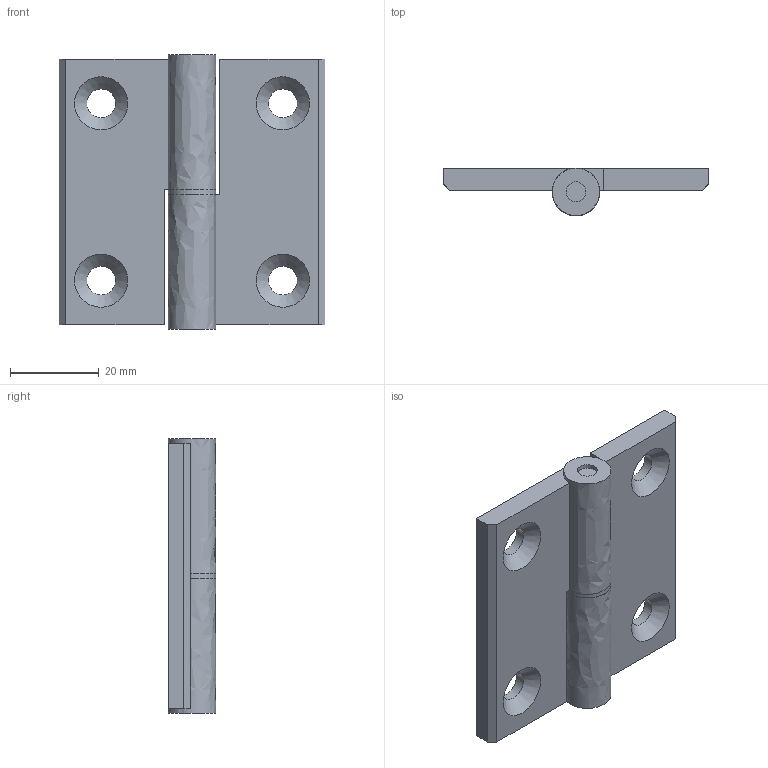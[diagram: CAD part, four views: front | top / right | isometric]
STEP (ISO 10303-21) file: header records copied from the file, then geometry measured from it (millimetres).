
FILE_DESCRIPTION((''),'2;1');
FILE_NAME('E:\catalogue and flyer\Profile catalogue 2015\Accessories ACC info\Accessories ACC step file 31Mar16\ACC-MHR6060-8.stp','2016-04-07T13:28:24',('h029'),(''),'Autodesk Inventor 11','Autodesk Inventor 11','');
FILE_SCHEMA(('AUTOMOTIVE_DESIGN { 1 0 10303 214 1 1 1 1 }'));
Length unit declared in the file: millimetre
Products named in the file (4): ACC-MHR6060-8; hinge part 1_MIR; pin_MIR; washer_MIR
Assembly tree (4 placements, depth 2):
  ACC-MHR6060-8
    hinge part 1_MIR  x2
    pin_MIR
    washer_MIR
Bounding box: 60 x 10.7 x 62 mm (x, y, z)
Volume: 19241.2 mm3; surface area: 10964 mm2
Topology: 4 solids, 4 shells, 43 faces, 93 edges, 62 vertices
Faces by surface type: bspline 35, cone 4, cylinder 4
Full cylindrical faces by diameter (mm): 6.5 x4
Entity records: 788 total; most frequent: CARTESIAN_POINT 249, DIRECTION 81, ORIENTED_EDGE 76, EDGE_LOOP 43, EDGE_CURVE 38, AXIS2_PLACEMENT_3D 31, VERTEX_POINT 31, FACE_OUTER_BOUND 25
